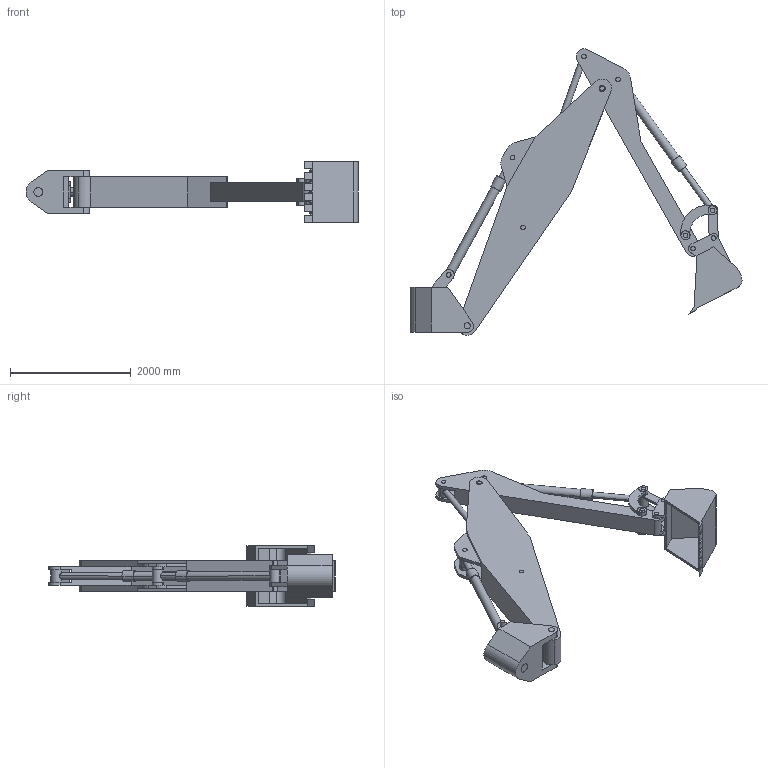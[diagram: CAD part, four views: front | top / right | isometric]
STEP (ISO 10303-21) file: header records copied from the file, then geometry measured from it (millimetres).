
FILE_DESCRIPTION (( 'STEP AP203' ), '1' );
FILE_NAME ('cau.STEP', '2021-08-22T05:58:05', ( '' ), ( '' ), 'SwSTEP 2.0', 'SolidWorks 2018', '' );
FILE_SCHEMA (( 'CONFIG_CONTROL_DESIGN' ));
Length unit declared in the file: millimetre
Products named in the file (15): 1; n4; n2; 11; n12; 10; 6; n13; n15; n14; n1; 8; cau; 4; 2
Assembly tree (25 placements, depth 2):
  cau
    n1
    1
    2
    n12
    4  x3
    6  x3
    n15  x2
    n14
    n2
    8  x2
    11  x2
    10  x2
    n4
    n13  x4
Bounding box: 5500.87 x 4746.7 x 1006 mm (x, y, z)
Volume: 1462785328.5 mm3; surface area: 48665021.6 mm2
Topology: 25 solids, 25 shells, 387 faces, 948 edges, 620 vertices
Faces by surface type: cylinder 199, plane 188
Entity records: 11511 total; most frequent: CARTESIAN_POINT 1919, DIRECTION 1704, ORIENTED_EDGE 1524, EDGE_CURVE 762, AXIS2_PLACEMENT_3D 623, VERTEX_POINT 496, LINE 458, VECTOR 458
